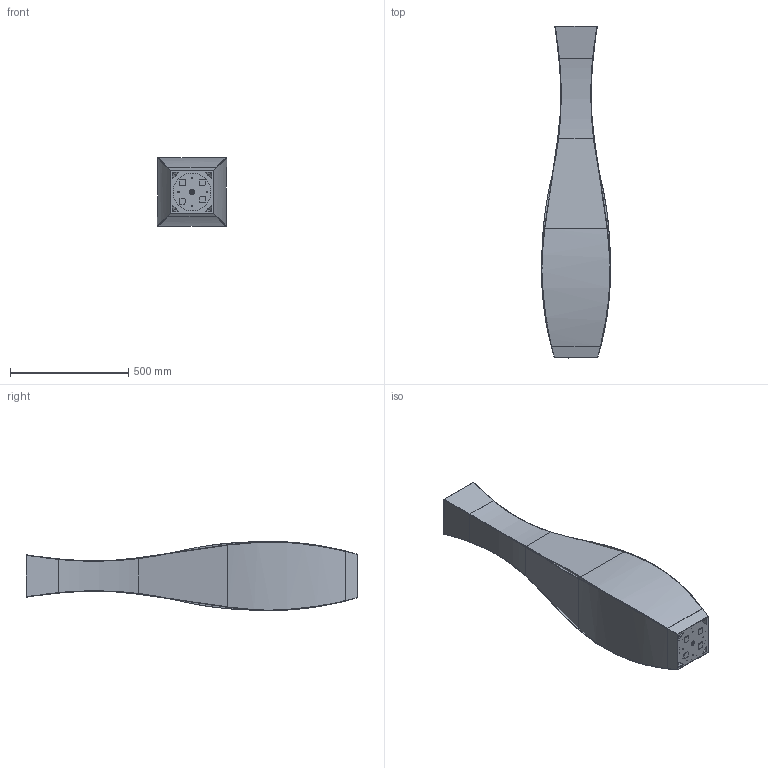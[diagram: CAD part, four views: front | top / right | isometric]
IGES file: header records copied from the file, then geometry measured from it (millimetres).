
Start section: SolidWorks IGES file using analytic representation for surfaces
Global section: file name: \\utenti\Dati Utenti\Tecnico\DC\2D - 3D per sito\3D\DeCastelli-3D-Lolita 140.igs; native system: SolidWorks 2022; preprocessor: SolidWorks 2022; author: Simonep; date: 240729.120308; units: millimetre
Bounding box: 291.71 x 1401.46 x 291.34 mm (x, y, z)
Surface area: 2481912.3 mm2 (no closed solid volume)
Topology: 0 solids, 0 shells, 156 faces, 1710 edges, 1710 vertices
Faces by surface type: bspline 88, revolution 68
